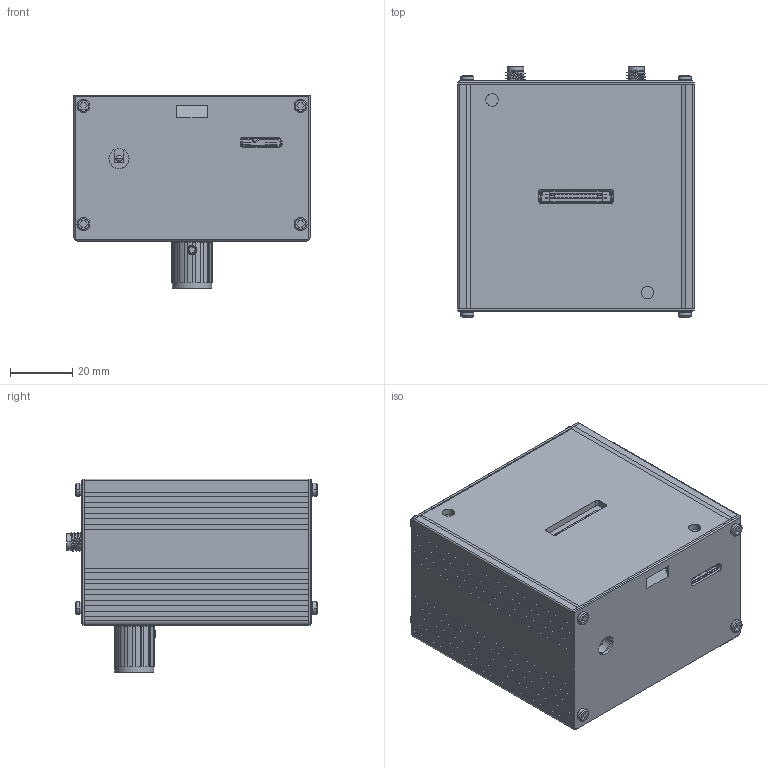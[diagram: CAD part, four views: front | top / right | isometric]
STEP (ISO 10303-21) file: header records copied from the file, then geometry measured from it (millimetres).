
FILE_DESCRIPTION((''),'2;1');
FILE_NAME('OBS-C1_ASM','2021-12-23T',('Administrator'),(''),'CREO PARAMETRIC BY PTC INC, 2015290','CREO PARAMETRIC BY PTC INC, 2015290','');
FILE_SCHEMA(('CONFIG_CONTROL_DESIGN'));
Products named in the file (22): OPMC-X4_A1; OBS-C1_PCB1; SMC10-P323B1-00_1_; DC-005; SMA-KWE; USB3_B; OBS-C1_PCBA1_ASM; OBS-C1_PCBA2; EC11; LCD; OBS-C1_PCBA2_ASM; OBS-C1_A2; OBS-C1_A3; OBS-C1_LABLE; OBS-C1_A4; OBS-C1_A5; JGZ_M2X9; NUT_2; M2X6_KM_2; M2X6_PM_2; M3X3_HS; OBS-C1_ASM
Assembly tree (38 placements, depth 3):
  OBS-C1_ASM
    OPMC-X4_A1
    OBS-C1_PCBA1_ASM
      OBS-C1_PCB1
      SMC10-P323B1-00_1_
      DC-005
      SMA-KWE  x2
      USB3_B
    OBS-C1_PCBA2_ASM
      OBS-C1_PCBA2
      EC11
      LCD
    OBS-C1_A2
    OBS-C1_A3
    OBS-C1_LABLE
    OBS-C1_A4
    OBS-C1_A5
    JGZ_M2X9  x4
    NUT_2  x4
    M2X6_KM_2  x4
    M2X6_PM_2  x8
    M3X3_HS
Bounding box: 76 x 80.65 x 62.4 mm (x, y, z)
Volume: 68652.9 mm3; surface area: 95936.9 mm2
Topology: 37 solids, 37 shells, 2736 faces, 7427 edges, 4889 vertices
Faces by surface type: plane 1817, cylinder 782, cone 97, bspline 30, torus 8, sphere 2
Entity records: 79431 total; most frequent: CARTESIAN_POINT 16491, ORIENTED_EDGE 13296, DIRECTION 12673, EDGE_CURVE 6648, VECTOR 5023, LINE 5023, VERTEX_POINT 4394, AXIS2_PLACEMENT_3D 3825
